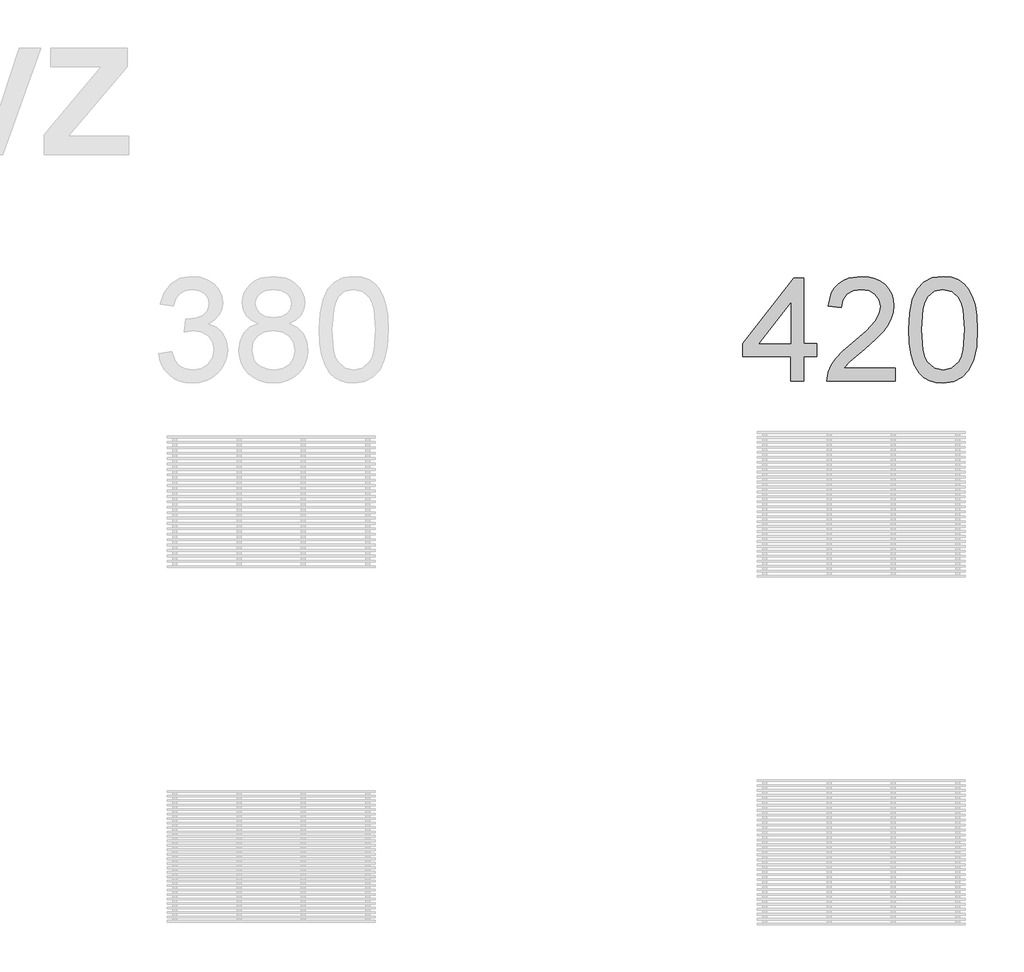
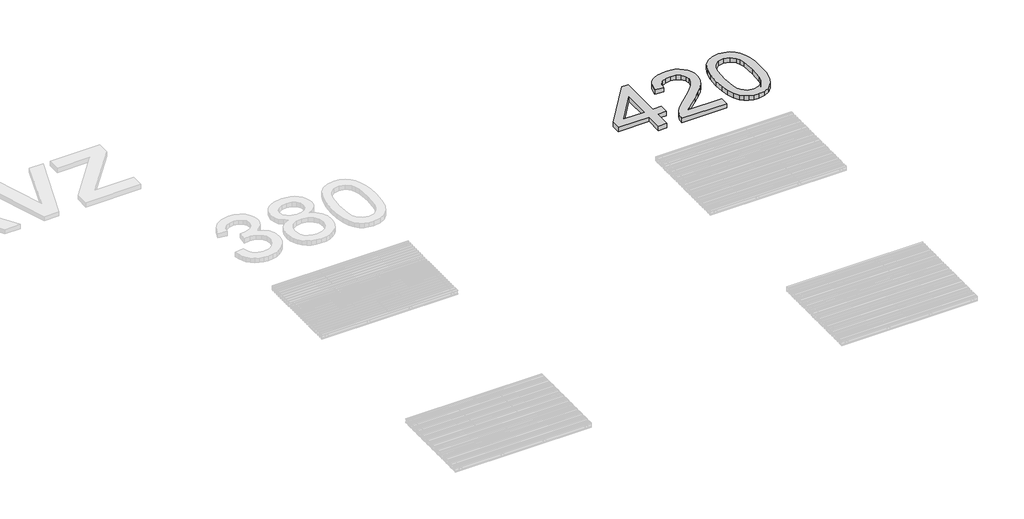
# One storey, part 12 of 12: 1 proxy.
"""IFC4 building model written with IfcOpenShell, lengths in millimetres."""

import ifcopenshell
import ifcopenshell.guid

model = None  # the IFC model being written
_history = None  # IfcOwnerHistory: only IFC2X3 demands one
_inside = {}  # id of a spatial element -> (the spatial element, [elements in it])
_under = {}  # id of a project, library or spatial element -> (it, [spatial elements below it])
_declared = {}  # id of a project -> (the project, [libraries it declares])
_typed = {}  # id of a type object -> (the type object, [elements of that type])
_made_of = {}  # id of a material, layer set ... -> (it, [elements and type objects made of it])


def new_model(schema):
    """Start an empty IFC model of exactly this schema.

    Asked for "IFC4X3", IfcOpenShell would pick the latest addendum, in which some entities
    have other attributes; the version numbers below select the first issue.
    IFC2X3 requires an IfcOwnerHistory on every rooted entity: one is made here for all.
    """
    global model, _history
    if schema == "IFC4X3":
        model = ifcopenshell.file(schema_version=(4, 3, 0, 0))
    else:
        model = ifcopenshell.file(schema=schema)
    _inside.clear()
    _under.clear()
    _declared.clear()
    _typed.clear()
    _made_of.clear()
    _history = None
    if model.schema == "IFC2X3":
        org = make("IfcOrganization", Name="unknown")
        user = make(
            "IfcPersonAndOrganization",
            ThePerson=make("IfcPerson", FamilyName="unknown"),
            TheOrganization=org,
        )
        app = make(
            "IfcApplication",
            ApplicationDeveloper=org,
            Version="unknown",
            ApplicationFullName="unknown",
            ApplicationIdentifier="unknown",
        )
        _history = make(
            "IfcOwnerHistory",
            OwningUser=user,
            OwningApplication=app,
            ChangeAction="ADDED",
            CreationDate=0,
        )
    return model


def make(cls, **values):
    """One entity of the class cls with the attributes given. An attribute that is None is left unset."""
    return model.create_entity(
        cls, **{name: value for name, value in values.items() if value is not None}
    )


def rooted(cls, **values):
    """An entity with a GlobalId (a new one), such as an element, a storey or a relation."""
    return make(cls, GlobalId=ifcopenshell.guid.new(), OwnerHistory=_history, **values)


def si_unit(unit_type, name, prefix=None):
    """IfcSIUnit, for example si_unit("LENGTHUNIT", "METRE", prefix="MILLI")."""
    return make("IfcSIUnit", UnitType=unit_type, Prefix=prefix, Name=name)


def assignment(units):
    """IfcUnitAssignment: the units of a project."""
    return None if units is None else make("IfcUnitAssignment", Units=units)


def point(xyz):
    """IfcCartesianPoint."""
    return None if xyz is None else make("IfcCartesianPoint", Coordinates=xyz)


def direction(xyz):
    """IfcDirection."""
    return None if xyz is None else make("IfcDirection", DirectionRatios=xyz)


def frame(location, z_axis=None, x_axis=None):
    """IfcAxis2Placement3D, a coordinate frame: its origin and axes. An axis left out is left unset."""
    return make(
        "IfcAxis2Placement3D",
        Location=point(location),
        Axis=direction(z_axis),
        RefDirection=direction(x_axis),
    )


def origin():
    """The frame at (0, 0, 0) with its axes left unset."""
    return frame((0.0, 0.0, 0.0))


def origin_with_axes():
    """The frame at (0, 0, 0) with the z axis (0, 0, 1) and the x axis (1, 0, 0) written out."""
    return frame((0.0, 0.0, 0.0), z_axis=(0.0, 0.0, 1.0), x_axis=(1.0, 0.0, 0.0))


def place(relative_to, where):
    """IfcLocalPlacement: puts the frame where relative to a parent placement (None: the world)."""
    return make(
        "IfcLocalPlacement", PlacementRelTo=relative_to, RelativePlacement=where
    )


def context(
    kind, dimensions, precision=None, world=None, true_north=None, identifier=None
):
    """IfcGeometricRepresentationContext, for example the 3D "Model" context."""
    return make(
        "IfcGeometricRepresentationContext",
        ContextIdentifier=identifier,
        ContextType=kind,
        CoordinateSpaceDimension=dimensions,
        Precision=precision,
        WorldCoordinateSystem=world,
        TrueNorth=true_north,
    )


def project(units=None, contexts=None):
    """IfcProject with its units and contexts."""
    return rooted(
        "IfcProject",
        Name="project",
        RepresentationContexts=contexts,
        UnitsInContext=assignment(units),
    )


def spatial(cls, under=None, at=None, **own):
    """A site, building, storey or space (cls), placed at a placement, below another one or the project."""
    s = rooted(cls, ObjectPlacement=at, **own)
    if under is not None:
        _under.setdefault(under.id(), (under, []))[1].append(s)
    return s


def polyline(points):
    """IfcPolyline through the points."""
    return make("IfcPolyline", Points=[point(p) for p in points])


def outline(outer, holes=None, kind="AREA"):
    """IfcArbitraryClosedProfileDef: a profile drawn as a closed curve; with holes, ...WithVoids."""
    if holes is None:
        return make("IfcArbitraryClosedProfileDef", ProfileType=kind, OuterCurve=outer)
    return make(
        "IfcArbitraryProfileDefWithVoids",
        ProfileType=kind,
        OuterCurve=outer,
        InnerCurves=holes,
    )


def extrude(swept, where, along, depth):
    """IfcExtrudedAreaSolid: the profile swept, set in the frame where, extruded along a direction by depth."""
    return make(
        "IfcExtrudedAreaSolid",
        SweptArea=swept,
        Position=where,
        ExtrudedDirection=direction(along),
        Depth=depth,
    )


def shape(context_of_items, identifier, shape_type, items):
    """IfcShapeRepresentation: the items that make up one representation, for example the "Body"."""
    return make(
        "IfcShapeRepresentation",
        ContextOfItems=context_of_items,
        RepresentationIdentifier=identifier,
        RepresentationType=shape_type,
        Items=items,
    )


def made_of(thing, what):
    """Note that an element or type object is made of a material, layer set ...; save() writes the relation."""
    if what is not None:
        _made_of.setdefault(what.id(), (what, []))[1].append(thing)
    return thing


def element(
    cls,
    number,
    at=None,
    inside=None,
    cuts=None,
    type_object=None,
    material=None,
    context=None,
    identifier="Body",
    shape_type=None,
    held_by="IfcProductDefinitionShape",
    body=None,
    shapes=None,
    **own,
):
    """One element of the class cls, such as IfcWall. Its Tag is "e" and its number.

    at: its placement. inside: the storey or other place that contains it. cuts: it is an
    opening in that element (IfcRelVoidsElement). A single representation is given by context,
    identifier, shape_type and body (its items); several are given by shapes. held_by: the class
    of the entity that holds the representations. save() writes the other relations.
    """
    e = rooted(cls, Tag="e%d" % number, ObjectPlacement=at, **own)
    if body is not None:
        shapes = [shape(context, identifier, shape_type, body)]
    if shapes is not None:
        e.Representation = make(held_by, Representations=shapes)
    if inside is not None:
        _inside.setdefault(inside.id(), (inside, []))[1].append(e)
    if cuts is not None:
        rooted(
            "IfcRelVoidsElement", RelatingBuildingElement=cuts, RelatedOpeningElement=e
        )
    if type_object is not None:
        _typed.setdefault(type_object.id(), (type_object, []))[1].append(e)
    return made_of(e, material)


def aggregate(whole, parts):
    """IfcRelAggregates: a whole, such as a stair, and the parts it consists of."""
    return rooted("IfcRelAggregates", RelatingObject=whole, RelatedObjects=parts)


def save(model, path):
    """Write the relations noted so far, then the file.

    IfcRelAggregates (storeys below a building ...), IfcRelContainedInSpatialStructure (elements
    in a storey), IfcRelDefinesByType, IfcRelAssociatesMaterial and IfcRelDeclares: one each for
    every whole, place, type object, material and project.
    """
    for whole, parts in _under.values():
        aggregate(whole, parts)
    for where, things in _inside.values():
        rooted(
            "IfcRelContainedInSpatialStructure",
            RelatedElements=things,
            RelatingStructure=where,
        )
    for kind, things in _typed.values():
        rooted("IfcRelDefinesByType", RelatedObjects=things, RelatingType=kind)
    for what, things in _made_of.values():
        rooted("IfcRelAssociatesMaterial", RelatedObjects=things, RelatingMaterial=what)
    for by, libraries in _declared.values():
        rooted("IfcRelDeclares", RelatingContext=by, RelatedDefinitions=libraries)
    model.write(path)


model = new_model("IFC4")

# Units and contexts
model_context = context("Model", 3, world=origin())
ifc_project = project(units=[si_unit("LENGTHUNIT", "METRE", prefix="MILLI")], contexts=[model_context])

# Site, building, storey
site = spatial("IfcSite", under=ifc_project)
building = spatial("IfcBuilding", under=site)
storey = spatial("IfcBuildingStorey", under=building, Name="Уровень 1", Elevation=0.0)

# Proxy
placement = place(None, origin())
element("IfcBuildingElementProxy", 1, Name="300", ObjectType="300", at=placement, inside=storey, context=model_context, shape_type="SweptSolid", body=[
    extrude(outline(polyline([(18828.5101755, -5554.0244877), (18828.5101755, -5483.3911446), (18691.9523789, -5483.3911446), (18691.9523789, -5445.7200283), (18837.9279545, -5257.3644468), (18866.1812918, -5257.3644468), (18866.1812918, -5445.7200283), (18903.8524081, -5445.7200283), (18903.8524081, -5483.3911446), (18866.1812918, -5483.3911446), (18866.1812918, -5554.0244877), (18828.5101755, -5554.0244877)]), holes=[polyline([(18828.5101755, -5445.7200283), (18828.5101755, -5329.3221651), (18738.3055102, -5445.7200283), (18828.5101755, -5445.7200283)])]), origin_with_axes(), (0.0, 0.0, 1.0), 20.0),
    extrude(outline(polyline([(19129.8791059, -5516.3533714), (19129.8791059, -5554.0244877), (18932.1057453, -5554.0244877), (18936.1524473, -5528.0520189), (18945.4414676, -5507.7541298), (18959.0347074, -5488.063246), (18978.698, -5467.4526572), (19006.1971791, -5444.3956531), (19046.8481396, -5408.2880353), (19071.2387159, -5381.6349848), (19083.434004, -5360.0035235), (19087.4991001, -5338.9606733), (19083.6639303, -5320.097524), (19072.1584209, -5304.416554), (19054.4724939, -5293.8491437), (19032.0960716, -5290.3266736), (19008.5976092, -5293.7663702), (18990.3414651, -5304.0854602), (18978.5600442, -5320.4746031), (18974.4857511, -5342.1244585), (18936.8146348, -5337.415569), (18945.9473054, -5300.9768573), (18954.493664, -5286.44092), (18965.6933715, -5274.360595), (18979.2889104, -5264.864641), (18995.0227635, -5258.0818167), (19032.905412, -5252.6555573), (19053.0952357, -5254.1638734), (19071.0639719, -5258.688822), (19086.8116206, -5266.2304029), (19100.3381817, -5276.7886161), (19111.2021969, -5289.5817125), (19118.9622077, -5303.8279428), (19123.6182142, -5319.5273069), (19125.1702164, -5336.679805), (19123.4963533, -5354.6968257), (19118.4747641, -5372.4011467), (19109.5628227, -5390.4089704), (19096.2179034, -5409.336499), (19074.945127, -5431.9336506), (19042.2496147, -5460.9503429), (18998.9131156, -5497.1867195), (18981.9169675, -5516.3533714), (19129.8791059, -5516.3533714)])), origin_with_axes(), (0.0, 0.0, 1.0), 20.0),
    extrude(outline(polyline([(19167.5502222, -5405.7680437), (19170.3185342, -5357.529517), (19178.6234703, -5319.0582574), (19192.3822569, -5289.7656535), (19211.5121206, -5269.0630942), (19236.1510173, -5256.7574415), (19266.4369025, -5252.6555573), (19289.6502564, -5255.0835784), (19310.4355891, -5262.3676419), (19327.8180134, -5274.2226392), (19340.8226419, -5290.3634618), (19350.6450912, -5310.6521538), (19358.4809777, -5334.9507596), (19363.6129315, -5365.8068619), (19365.3235828, -5405.7680437), (19362.582862, -5453.7306588), (19354.3606994, -5492.1099479), (19340.6846862, -5521.4301429), (19321.5824136, -5542.2154757), (19296.8883347, -5554.6039019), (19266.4369025, -5558.7333772), (19245.688358, -5556.9399525), (19227.2942582, -5551.5596783), (19211.2546032, -5542.5925547), (19197.569393, -5530.0385816), (19184.4360058, -5507.344861), (19175.0550149, -5479.0685312), (19169.4264204, -5445.2095921), (19167.5502222, -5405.7680437)]), holes=[polyline([(19205.2213385, -5405.6944673), (19209.6359225, -5464.9510596), (19215.1541524, -5485.2190583), (19222.8796743, -5499.2468586), (19242.5981492, -5515.6084104), (19266.4369025, -5521.0622609), (19290.2756558, -5515.5900163), (19309.9941307, -5499.1732822), (19317.7196526, -5485.1224893), (19323.2378826, -5464.8590891), (19327.6524665, -5405.6944673), (19323.3850354, -5347.7714471), (19318.0507464, -5327.5701271), (19310.5827419, -5313.2089337), (19290.9010552, -5296.0472386), (19265.9954441, -5290.3266736), (19242.4142082, -5295.3666569), (19223.4682855, -5310.4866069), (19215.4852462, -5326.1215917), (19209.7830753, -5347.20123), (19205.2213385, -5405.6944673)])]), origin_with_axes(), (0.0, 0.0, 1.0), 20.0),
])

save(model, "model.ifc")
